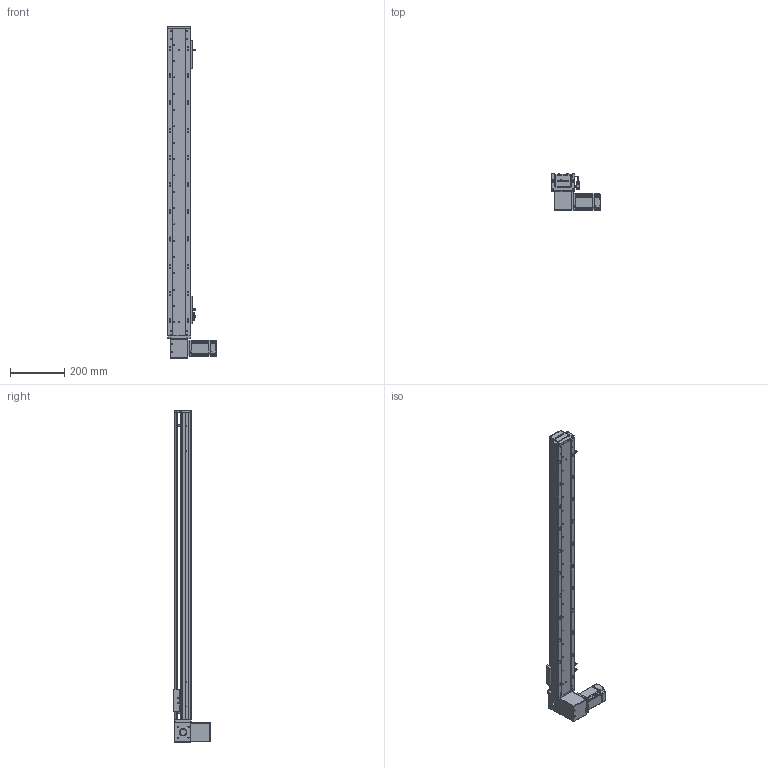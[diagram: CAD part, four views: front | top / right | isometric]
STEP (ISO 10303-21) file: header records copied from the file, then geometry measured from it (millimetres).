
FILE_DESCRIPTION (( 'STEP AP203' ), '1' );
FILE_NAME ('RY80-T-300-DR.SLDASM_950.step', '2021-03-01T01:50:04', ( '盈信电脑' ), ( '东莞市道滘镇水果街19号' ), 'SwSTEP 2.0', 'SolidWorks 2012', '' );
FILE_SCHEMA (( 'CONFIG_CONTROL_DESIGN' ));
Products named in the file (18): RY80-T-300-DR.SLDASM_950; RY80-T-M4蹟翐3; 1; RY80-T萇儂假蚾啣; RY80-T肮祭謫狟殏俋欶; RY80-T翋肮祭謫裔啣; RY80-T-上下折同步轮盖板; 滅袉蝶18-10; RY80-T肮祭湍揤輸2; RY80-T-翋肮祭謫釱; RY80-T肮祭湍揤輸1; RY80俋离覜茼え; 覜茼ん672; 672嫖萇羲壽假蚾釱; RY80-T肮祭謫臏賑輸; RY80-T綴裔啣; RY80-T-300-DR倰第奻裔啣_950; RY80-T-300-DR倰第菁釱_950
Assembly tree (21 placements, depth 2):
  RY80-T-300-DR.SLDASM_950
    RY80-T-300-DR倰第菁釱_950
    RY80-T肮祭謫臏賑輸
    RY80-T-300-DR倰第奻裔啣_950
    RY80-T綴裔啣
    672嫖萇羲壽假蚾釱  x2
    覜茼ん672  x3
    RY80俋离覜茼え
    RY80-T-翋肮祭謫釱
    RY80-T肮祭湍揤輸1
    RY80-T肮祭湍揤輸2
    滅袉蝶18-10  x2
    RY80-T翋肮祭謫裔啣
    RY80-T-上下折同步轮盖板
    RY80-T肮祭謫狟殏俋欶
    RY80-T萇儂假蚾啣
    1
    RY80-T-M4蹟翐3
Bounding box: 180 x 134.5 x 1220 mm (x, y, z)
Volume: 2094328 mm3; surface area: 876998.2 mm2
Topology: 21 solids, 21 shells, 2564 faces, 7134 edges, 4634 vertices
Faces by surface type: plane 1339, cylinder 1024, cone 145, bspline 56
Entity records: 83470 total; most frequent: CARTESIAN_POINT 21408, ORIENTED_EDGE 12912, DIRECTION 11910, EDGE_CURVE 6456, VERTEX_POINT 4238, AXIS2_PLACEMENT_3D 4032, VECTOR 3846, LINE 3846
